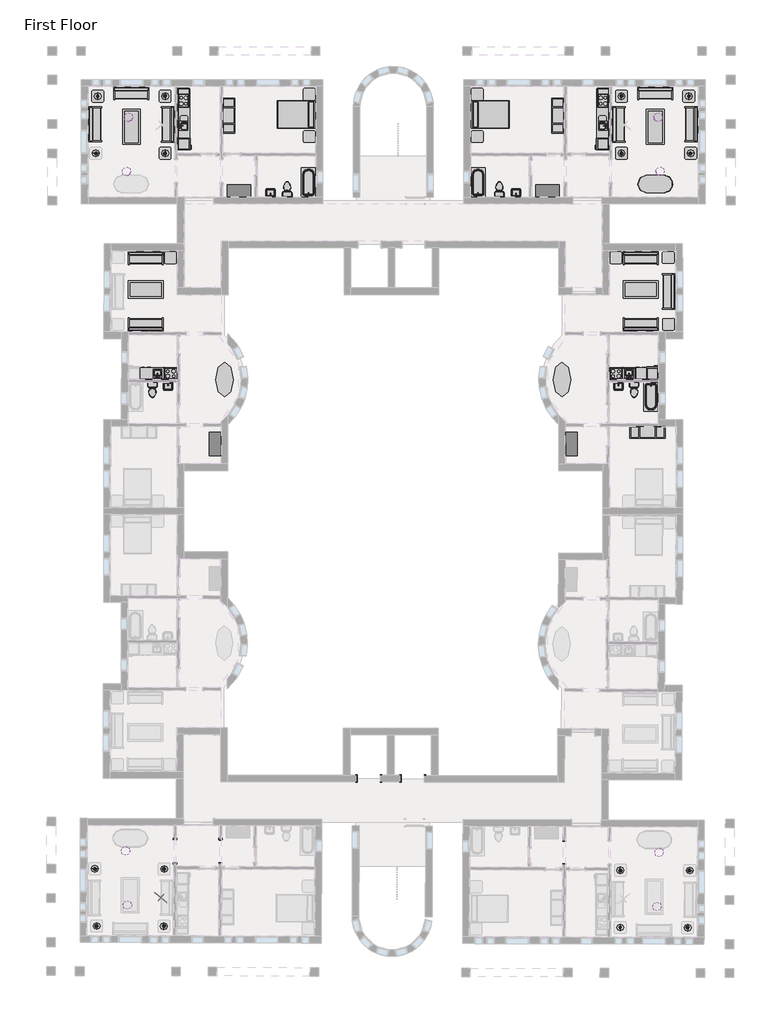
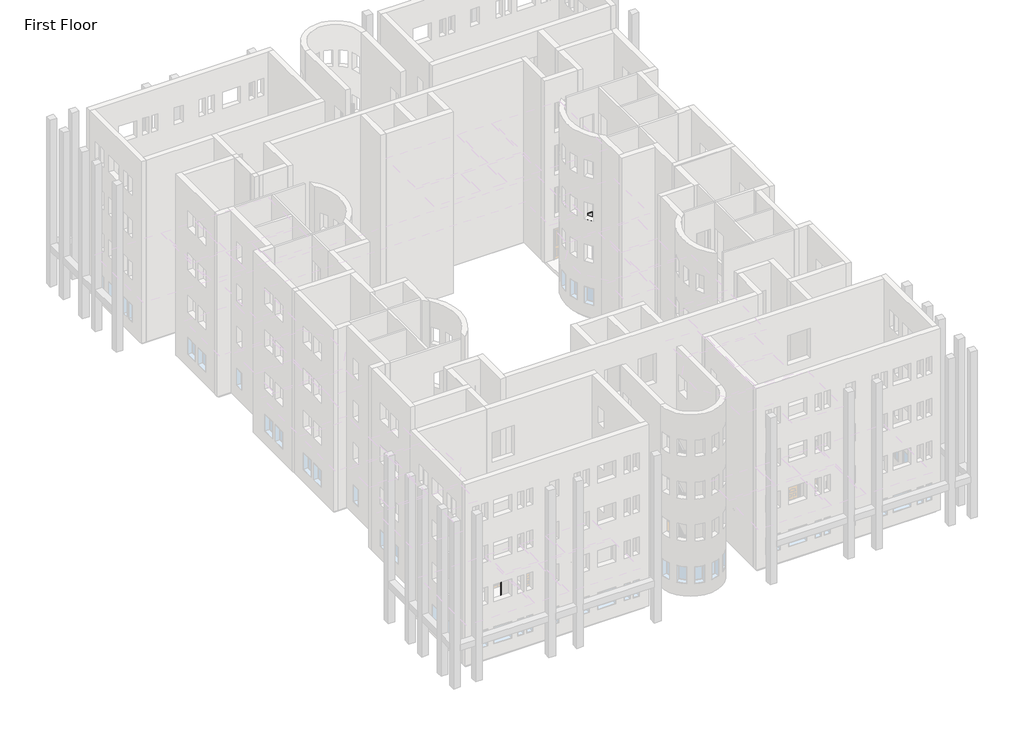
# One storey, part 22 of 23: 46 furniture elements, 24 light fixtures, 21 proxies, 15 flow terminals.
"""IFC4 building model written with IfcOpenShell, lengths in millimetres."""

from ifc_helpers import new_model, si_unit, origin, place, context, project, spatial, transform, mapped, element, save
from components import m_cook_top_4_unit2_0615_x_500mm_249f3515, m_cook_top_4_unit2_0615_x_500mm_c91639ce, m_dishwasher_610_x_610_x_875mm_54ecfc4c, m_dishwasher_610_x_610_x_875mm_75336c20, m_kitchenette_medium_2591_ce898a11, m_kitchenette_medium_2591_5feaf90f, m_kitchenette_medium_1372mm_e05c6bec, m_kitchenette_medium_1372mm_39f1532f, m_passage_opening_cased_1220_x_2134mm_87a8d9c2, m_passage_opening_cased_1220_x_2134mm_7296280d, m_passage_opening_cased_1220_x_2134mm_b92f2863, m_rpc_female_c3b5a3e1, m_refrigerator_600_x_660mm_a466bf94, m_refrigerator_600_x_660mm_0a899b9c, m_sink_kitchen_island_450_x_450mm_f969cf2d, m_sink_kitchen_island_450_x_450mm_f6c2c534, m_sink_vanity_square_500_x_440mm_1e229b74, m_sink_vanity_square_500_x_440mm_f3cfe680, m_toilet_domestic_3d_m_toilet_domestic_3d_5cb52bd4, m_toilet_domestic_3d_m_toilet_domestic_3d_183bbd19, m_toilet_domestic_3d_m_toilet_domestic_3d_43425dfb, m_toilet_domestic_3d_m_toilet_domestic_3d_5530cc89, m_tub_rectangular_3d_m_tub_rectangular_3d_3a981ad5, m_tub_rectangular_3d_m_tub_rectangular_3d_c2020133, m_bed_shaker_1422_x_1981mm_double_096e7f55, m_bed_shaker_1422_x_1981mm_double_097b173b, m_counter_top_w_sink_hole_600mm_depth_5db41418, m_counter_top_w_sink_hole_600mm_depth_08c4f679, m_counter_top_w_sink_hole_600mm_depth_60928b92, m_counter_top_w_sink_hole_600mm_depth_42226178, m_dresser_1220_x_1525_x_0610mm_18e1f140, m_dresser_1220_x_1525_x_0610mm_4e5de046, m_entertainment_center_1830_x_1830_x_0610mm_f77a9b93, m_entertainment_center_1830_x_1830_x_0610mm_4f6058a0, m_sofa_1830mm_58d08fc1, m_sofa_1830mm_3da2e71b, m_sofa1_1830mm_f9e8a66b, m_sofa1_1830mm_493d6964, m_table_coffee_0915_x_1830_x_0457mm_134cd960, m_table_coffee_0915_x_1830_x_0457mm_595c1ebd, m_table_dining_oval_0915_x_1830mm_a7cfbe21, m_table_ellipse_1800_x_900mm_fd46d5a5, m_table_ellipse_1800_x_900mm_f7269293, m_table_end_cb6ea12e, m_table_end_aa2764bc, m_table_end_0610_x_0160mm_e0e5b28f, m_table_end_0610_x_0160mm_ccef8dc9, m_pendant_light_disk_100w_120v_a7a090af, m_pendant_light_disk_100w_120v_732193ba, m_table_lamp_standard_60w_120v_6e8cd8b1, m_table_lamp_standard_60w_120v_b33ea945

model = new_model("IFC4")

# Units and contexts
model_context = context("Model", 3, world=origin())
ifc_project = project(units=[si_unit("LENGTHUNIT", "METRE", prefix="MILLI")], contexts=[model_context])

# Site, building, storey
site = spatial("IfcSite", under=ifc_project)
building = spatial("IfcBuilding", under=site)
storey = spatial("IfcBuildingStorey", under=building, Name="First Floor", Elevation=0.0)

# Proxies
placement = place(None, origin())
m_cook_top_4_unit2_0615_x_500mm_shape = m_cook_top_4_unit2_0615_x_500mm_249f3515(model_context)
element("IfcBuildingElementProxy", 1, Name="M_Cook Top-4 Unit2 : 0615 x 500mm", ObjectType="M_Cook Top-4 Unit2 : 0615 x 500mm", at=placement, inside=storey, context=model_context, shape_type="MappedRepresentation", body=[
    mapped(m_cook_top_4_unit2_0615_x_500mm_shape, transform((-8054.9916203, 1658.804661, 0.0), x_axis=(0.0, -1.0, 0.0), y_axis=(1.0, 0.0, 0.0), z_axis=(0.0, 0.0, 1.0))),
])
element("IfcBuildingElementProxy", 2, Name="M_Cook Top-4 Unit2 : 0615 x 500mm", ObjectType="M_Cook Top-4 Unit2 : 0615 x 500mm", at=placement, inside=storey, context=model_context, shape_type="MappedRepresentation", body=[
    mapped(m_cook_top_4_unit2_0615_x_500mm_shape, transform((-30530.5448332, -12522.1734226, 0.0), x_axis=(-0.9999989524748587, 0.0014474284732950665, 0.0), y_axis=(-0.0014474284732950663, -0.9999989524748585, 0.0), z_axis=(0.0, 0.0, 0.9999999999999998))),
])
m_cook_top_4_unit2_0615_x_500mm_2_shape = m_cook_top_4_unit2_0615_x_500mm_c91639ce(model_context)
element("IfcBuildingElementProxy", 3, Name="M_Cook Top-4 Unit2 : 0615 x 500mm", ObjectType="M_Cook Top-4 Unit2 : 0615 x 500mm", at=placement, inside=storey, context=model_context, shape_type="MappedRepresentation", body=[
    mapped(m_cook_top_4_unit2_0615_x_500mm_2_shape, transform((-7383.6384074, -12522.1734226, 0.0), x_axis=(0.9999989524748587, 0.0014474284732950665, 0.0), y_axis=(-0.0014474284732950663, 0.9999989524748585, 0.0), z_axis=(0.0, 0.0, 0.9999999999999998))),
])
element("IfcBuildingElementProxy", 4, Name="M_Cook Top-4 Unit2 : 0615 x 500mm", ObjectType="M_Cook Top-4 Unit2 : 0615 x 500mm", at=placement, inside=storey, context=model_context, shape_type="MappedRepresentation", body=[
    mapped(m_cook_top_4_unit2_0615_x_500mm_2_shape, transform((-29859.1916203, 1658.804661, 0.0), x_axis=(0.0, -1.0, 0.0), y_axis=(1.0, 0.0, 0.0), z_axis=(0.0, 0.0, 1.0))),
])
m_dishwasher_610_x_610_x_875mm_shape = m_dishwasher_610_x_610_x_875mm_54ecfc4c(model_context)
element("IfcBuildingElementProxy", 5, Name="M_Dishwasher : 610 x 610 x 875mm", ObjectType="M_Dishwasher : 610 x 610 x 875mm", at=placement, inside=storey, context=model_context, shape_type="MappedRepresentation", body=[
    mapped(m_dishwasher_610_x_610_x_875mm_shape, transform((-8321.6411851, 403.0721295, 0.0), x_axis=(0.0, -1.0, 0.0), y_axis=(1.0, 0.0, 0.0), z_axis=(0.0, 0.0, 1.0))),
])
element("IfcBuildingElementProxy", 6, Name="M_Dishwasher : 610 x 610 x 875mm", ObjectType="M_Dishwasher : 610 x 610 x 875mm", at=placement, inside=storey, context=model_context, shape_type="MappedRepresentation", body=[
    mapped(m_dishwasher_610_x_610_x_875mm_shape, transform((-31445.6404496, -12254.1990417, 0.0), x_axis=(-0.9999989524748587, 0.0014474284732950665, 0.0), y_axis=(-0.0014474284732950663, -0.9999989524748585, 0.0), z_axis=(0.0, 0.0, 0.9999999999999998))),
])
m_dishwasher_610_x_610_x_875mm_2_shape = m_dishwasher_610_x_610_x_875mm_75336c20(model_context)
element("IfcBuildingElementProxy", 7, Name="M_Dishwasher : 610 x 610 x 875mm", ObjectType="M_Dishwasher : 610 x 610 x 875mm", at=placement, inside=storey, context=model_context, shape_type="MappedRepresentation", body=[
    mapped(m_dishwasher_610_x_610_x_875mm_2_shape, transform((-6468.5427911, -12254.1990417, 0.0), x_axis=(0.9999989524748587, 0.0014474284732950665, 0.0), y_axis=(-0.0014474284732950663, 0.9999989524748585, 0.0), z_axis=(0.0, 0.0, 0.9999999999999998))),
])
element("IfcBuildingElementProxy", 8, Name="M_Dishwasher : 610 x 610 x 875mm", ObjectType="M_Dishwasher : 610 x 610 x 875mm", at=placement, inside=storey, context=model_context, shape_type="MappedRepresentation", body=[
    mapped(m_dishwasher_610_x_610_x_875mm_2_shape, transform((-29592.5420555, 403.0721295, 0.0), x_axis=(0.0, -1.0, 0.0), y_axis=(1.0, 0.0, 0.0), z_axis=(0.0, 0.0, 1.0))),
])
m_kitchenette_medium_2591_shape = m_kitchenette_medium_2591_ce898a11(model_context)
element("IfcBuildingElementProxy", 9, Name="M_Kitchenette - Medium : 2591", ObjectType="M_Kitchenette - Medium : 2591", at=placement, inside=storey, context=model_context, shape_type="MappedRepresentation", body=[
    mapped(m_kitchenette_medium_2591_shape, transform((-7749.9916203, 1029.7923659, 0.0), x_axis=(0.0, -1.0, 0.0), y_axis=(1.0, 0.0, 0.0), z_axis=(0.0, 0.0, 1.0))),
])
m_kitchenette_medium_2591_2_shape = m_kitchenette_medium_2591_5feaf90f(model_context)
element("IfcBuildingElementProxy", 10, Name="M_Kitchenette - Medium : 2591", ObjectType="M_Kitchenette - Medium : 2591", at=placement, inside=storey, context=model_context, shape_type="MappedRepresentation", body=[
    mapped(m_kitchenette_medium_2591_2_shape, transform((-30164.1916203, 1029.7923659, 0.0), x_axis=(0.0, -1.0, 0.0), y_axis=(1.0, 0.0, 0.0), z_axis=(0.0, 0.0, 1.0))),
])
m_kitchenette_medium_1372mm_shape = m_kitchenette_medium_1372mm_e05c6bec(model_context)
element("IfcBuildingElementProxy", 11, Name="M_Kitchenette - Medium1 : 1372mm 2", ObjectType="M_Kitchenette - Medium1 : 1372mm 2", at=placement, inside=storey, context=model_context, shape_type="MappedRepresentation", body=[
    mapped(m_kitchenette_medium_1372mm_shape, transform((-30855.2482543, -12826.7037567, 0.0), x_axis=(-0.9999989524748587, 0.0014474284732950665, 0.0), y_axis=(-0.0014474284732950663, -0.9999989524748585, 0.0), z_axis=(0.0, 0.0, 0.9999999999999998))),
])
m_kitchenette_medium_1372mm_2_shape = m_kitchenette_medium_1372mm_39f1532f(model_context)
element("IfcBuildingElementProxy", 12, Name="M_Kitchenette - Medium1 : 1372mm 2", ObjectType="M_Kitchenette - Medium1 : 1372mm 2", at=placement, inside=storey, context=model_context, shape_type="MappedRepresentation", body=[
    mapped(m_kitchenette_medium_1372mm_2_shape, transform((-7058.9349863, -12826.7037567, 0.0), x_axis=(0.9999989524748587, 0.0014474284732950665, 0.0), y_axis=(-0.0014474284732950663, 0.9999989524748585, 0.0), z_axis=(0.0, 0.0, 0.9999999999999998))),
])
m_passage_opening_cased_1220_x_2134mm_shape = m_passage_opening_cased_1220_x_2134mm_87a8d9c2(model_context)
element("IfcBuildingElementProxy", 13, Name="M_Passage Opening-Cased : 1220 x 2134mm", ObjectType="M_Passage Opening-Cased : 1220 x 2134mm", at=placement, inside=storey, context=model_context, shape_type="MappedRepresentation", body=[
    mapped(m_passage_opening_cased_1220_x_2134mm_shape, transform((-30300.0399955, -37354.6106974, 0.0), x_axis=(-0.0028948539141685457, -0.9999958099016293, 0.0), y_axis=(0.9999958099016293, -0.0028948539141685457, 0.0), z_axis=(0.0, 0.0, 1.0))),
])
element("IfcBuildingElementProxy", 14, Name="M_Passage Opening-Cased : 1220 x 2134mm", ObjectType="M_Passage Opening-Cased : 1220 x 2134mm", at=placement, inside=storey, context=model_context, shape_type="MappedRepresentation", body=[
    mapped(m_passage_opening_cased_1220_x_2134mm_shape, transform((-27946.252448, -37345.047215, 0.0), x_axis=(0.0028948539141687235, 0.9999958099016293, 0.0), y_axis=(-0.9999958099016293, 0.0028948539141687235, 0.0), z_axis=(0.0, 0.0, 1.0))),
])
m_passage_opening_cased_1220_x_2134mm_2_shape = m_passage_opening_cased_1220_x_2134mm_7296280d(model_context)
element("IfcBuildingElementProxy", 15, Name="M_Passage Opening-Cased : 1220 x 2134mm", ObjectType="M_Passage Opening-Cased : 1220 x 2134mm", at=placement, inside=storey, context=model_context, shape_type="MappedRepresentation", body=[
    mapped(m_passage_opening_cased_1220_x_2134mm_2_shape, transform((-10070.3273502, -37396.7956235, 0.0), x_axis=(0.0028948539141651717, 0.9999958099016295, 0.0), y_axis=(-0.9999958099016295, 0.0028948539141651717, 0.0), z_axis=(0.0, 0.0, 1.0))),
])
m_passage_opening_cased_1220_x_2134mm_3_shape = m_passage_opening_cased_1220_x_2134mm_b92f2863(model_context)
element("IfcBuildingElementProxy", 16, Name="M_Passage Opening-Cased : 1220 x 2134mm", ObjectType="M_Passage Opening-Cased : 1220 x 2134mm", at=placement, inside=storey, context=model_context, shape_type="MappedRepresentation", body=[
    mapped(m_passage_opening_cased_1220_x_2134mm_3_shape, transform((-17956.4772285, -33572.1390027, 0.0), x_axis=(-0.9999958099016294, 0.0028948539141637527, 0.0), y_axis=(-0.0028948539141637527, -0.9999958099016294, 0.0), z_axis=(0.0, 0.0, 1.0))),
])
element("IfcBuildingElementProxy", 17, Name="M_Passage Opening-Cased : 1220 x 2134mm", ObjectType="M_Passage Opening-Cased : 1220 x 2134mm", at=placement, inside=storey, context=model_context, shape_type="MappedRepresentation", body=[
    mapped(m_passage_opening_cased_1220_x_2134mm_3_shape, transform((-20226.0904051, -33565.5687766, 0.0), x_axis=(0.9999958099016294, -0.0028948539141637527, 0.0), y_axis=(0.0028948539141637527, 0.9999958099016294, 0.0), z_axis=(0.0, 0.0, 1.0))),
])
m_rpc_female_shape = m_rpc_female_c3b5a3e1(model_context)
element("IfcBuildingElementProxy", 18, Name="M_RPC Female : Cynthia", ObjectType="M_RPC Female : Cynthia", at=placement, inside=storey, context=model_context, shape_type="MappedRepresentation", body=[
    mapped(m_rpc_female_shape, transform((-31154.1452796, -39648.8920059, 0.0), x_axis=(0.6315674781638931, 0.77532091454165, 0.0), y_axis=(-0.77532091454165, 0.6315674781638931, 0.0), z_axis=(0.0, 0.0, 1.0))),
])
m_refrigerator_600_x_660mm_shape = m_refrigerator_600_x_660mm_a466bf94(model_context)
element("IfcBuildingElementProxy", 19, Name="M_Refrigerator : 600 x 660mm", ObjectType="M_Refrigerator : 600 x 660mm", at=placement, inside=storey, context=model_context, shape_type="MappedRepresentation", body=[
    mapped(m_refrigerator_600_x_660mm_shape, transform((-8046.2067105, -638.2464817, 0.0), x_axis=(0.0, -1.0, 0.0), y_axis=(1.0, 0.0, 0.0), z_axis=(0.0, 0.0, 1.0))),
])
m_refrigerator_600_x_660mm_2_shape = m_refrigerator_600_x_660mm_0a899b9c(model_context)
element("IfcBuildingElementProxy", 20, Name="M_Refrigerator : 600 x 660mm", ObjectType="M_Refrigerator : 600 x 660mm", at=placement, inside=storey, context=model_context, shape_type="MappedRepresentation", body=[
    mapped(m_refrigerator_600_x_660mm_2_shape, transform((-5426.8265991, -12528.1259936, 0.0), x_axis=(0.9999989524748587, 0.0014474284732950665, 0.0), y_axis=(-0.0014474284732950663, 0.9999989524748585, 0.0), z_axis=(0.0, 0.0, 0.9999999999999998))),
])
element("IfcBuildingElementProxy", 21, Name="M_Refrigerator : 600 x 660mm", ObjectType="M_Refrigerator : 600 x 660mm", at=placement, inside=storey, context=model_context, shape_type="MappedRepresentation", body=[
    mapped(m_refrigerator_600_x_660mm_2_shape, transform((-29867.9765301, -638.2464817, 0.0), x_axis=(0.0, -1.0, 0.0), y_axis=(1.0, 0.0, 0.0), z_axis=(0.0, 0.0, 1.0))),
])

# Flow terminals
m_sink_kitchen_island_450_x_450mm_shape = m_sink_kitchen_island_450_x_450mm_f969cf2d(model_context)
element("IfcFlowTerminal", 22, ObjectType="M_Sink Kitchen-Island : 450 x 450mm", at=placement, inside=storey, context=model_context, shape_type="MappedRepresentation", body=[
    mapped(m_sink_kitchen_island_450_x_450mm_shape, transform((-8057.3370214, 378.9939015, 0.0), x_axis=(0.0, -1.0, 0.0), y_axis=(1.0, 0.0, 0.0), z_axis=(0.0, 0.0, 1.0))),
])
element("IfcFlowTerminal", 23, ObjectType="M_Sink Kitchen-Island : 450 x 450mm", at=placement, inside=storey, context=model_context, shape_type="MappedRepresentation", body=[
    mapped(m_sink_kitchen_island_450_x_450mm_shape, transform((-31200.8514957, -12518.8577971, 0.0), x_axis=(-0.9999989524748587, 0.0014474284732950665, 0.0), y_axis=(-0.0014474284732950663, -0.9999989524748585, 0.0), z_axis=(0.0, 0.0, 0.9999999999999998))),
])
m_sink_kitchen_island_450_x_450mm_2_shape = m_sink_kitchen_island_450_x_450mm_f6c2c534(model_context)
element("IfcFlowTerminal", 24, ObjectType="M_Sink Kitchen-Island : 450 x 450mm", at=placement, inside=storey, context=model_context, shape_type="MappedRepresentation", body=[
    mapped(m_sink_kitchen_island_450_x_450mm_2_shape, transform((-6713.331745, -12518.8577971, 0.0), x_axis=(0.9999989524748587, 0.0014474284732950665, 0.0), y_axis=(-0.0014474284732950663, 0.9999989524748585, 0.0), z_axis=(0.0, 0.0, 0.9999999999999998))),
])
element("IfcFlowTerminal", 25, ObjectType="M_Sink Kitchen-Island : 450 x 450mm", at=placement, inside=storey, context=model_context, shape_type="MappedRepresentation", body=[
    mapped(m_sink_kitchen_island_450_x_450mm_2_shape, transform((-29856.8462192, 378.9939015, 0.0), x_axis=(0.0, -1.0, 0.0), y_axis=(1.0, 0.0, 0.0), z_axis=(0.0, 0.0, 1.0))),
])
m_sink_vanity_square_500_x_440mm_shape = m_sink_vanity_square_500_x_440mm_1e229b74(model_context)
element("IfcFlowTerminal", 26, ObjectType="M_Sink Vanity-Square : 500 x 440mm", at=placement, inside=storey, context=model_context, shape_type="MappedRepresentation", body=[
    mapped(m_sink_vanity_square_500_x_440mm_shape, transform((-12563.5523798, -3158.1107603, 0.0), x_axis=(-1.0, 0.0, 0.0), y_axis=(0.0, -1.0, 0.0), z_axis=(0.0, 0.0, 1.0))),
])
element("IfcFlowTerminal", 27, ObjectType="M_Sink Vanity-Square : 500 x 440mm", at=placement, inside=storey, context=model_context, shape_type="MappedRepresentation", body=[
    mapped(m_sink_vanity_square_500_x_440mm_shape, transform((-30677.3455366, -13134.5069817, 0.0), x_axis=(0.9999989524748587, -0.001447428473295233, 0.0), y_axis=(0.0014474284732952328, 0.9999989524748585, 0.0), z_axis=(0.0, 0.0, 0.9999999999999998))),
])
m_sink_vanity_square_500_x_440mm_2_shape = m_sink_vanity_square_500_x_440mm_f3cfe680(model_context)
element("IfcFlowTerminal", 28, ObjectType="M_Sink Vanity-Square : 500 x 440mm", at=placement, inside=storey, context=model_context, shape_type="MappedRepresentation", body=[
    mapped(m_sink_vanity_square_500_x_440mm_2_shape, transform((-7236.8377041, -13134.5069817, 0.0), x_axis=(-0.9999989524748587, -0.001447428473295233, 0.0), y_axis=(0.0014474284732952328, -0.9999989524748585, 0.0), z_axis=(0.0, 0.0, 0.9999999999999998))),
])
element("IfcFlowTerminal", 29, ObjectType="M_Sink Vanity-Square : 500 x 440mm", at=placement, inside=storey, context=model_context, shape_type="MappedRepresentation", body=[
    mapped(m_sink_vanity_square_500_x_440mm_2_shape, transform((-25350.6308609, -3158.1107603, 0.0), x_axis=(1.0, 0.0, 0.0), y_axis=(0.0, 1.0, 0.0), z_axis=(0.0, 0.0, 1.0))),
])
m_toilet_domestic_3d_m_toilet_domestic_3d_shape = m_toilet_domestic_3d_m_toilet_domestic_3d_5cb52bd4(model_context)
m_toilet_domestic_3d_m_toilet_domestic_3d_2_shape = m_toilet_domestic_3d_m_toilet_domestic_3d_183bbd19(model_context)
element("IfcFlowTerminal", 30, ObjectType="M_Toilet-Domestic-3D : M_Toilet-Domestic-3D", at=placement, inside=storey, context=model_context, shape_type="MappedRepresentation", body=[
    mapped(m_toilet_domestic_3d_m_toilet_domestic_3d_shape, transform((-13440.7376477, -2845.185134, 0.0), x_axis=(-1.0, 0.0, 0.0), y_axis=(0.0, -1.0, 0.0), z_axis=(0.0, 0.0, 1.0))),
    mapped(m_toilet_domestic_3d_m_toilet_domestic_3d_2_shape, transform((-13440.7376477, -2845.185134, 0.0), x_axis=(-1.0, 0.0, 0.0), y_axis=(0.0, -1.0, 0.0), z_axis=(0.0, 0.0, 1.0))),
])
m_toilet_domestic_3d_m_toilet_domestic_3d_3_shape = m_toilet_domestic_3d_m_toilet_domestic_3d_43425dfb(model_context)
m_toilet_domestic_3d_m_toilet_domestic_3d_4_shape = m_toilet_domestic_3d_m_toilet_domestic_3d_5530cc89(model_context)
element("IfcFlowTerminal", 31, ObjectType="M_Toilet-Domestic-3D : M_Toilet-Domestic-3D", at=placement, inside=storey, context=model_context, shape_type="MappedRepresentation", body=[
    mapped(m_toilet_domestic_3d_m_toilet_domestic_3d_3_shape, transform((-24473.445593, -2845.185134, 0.0), x_axis=(1.0, 0.0, 0.0), y_axis=(0.0, 1.0, 0.0), z_axis=(0.0, 0.0, 1.0))),
    mapped(m_toilet_domestic_3d_m_toilet_domestic_3d_4_shape, transform((-24473.445593, -2845.185134, 0.0), x_axis=(1.0, 0.0, 0.0), y_axis=(0.0, 1.0, 0.0), z_axis=(0.0, 0.0, 1.0))),
])
element("IfcFlowTerminal", 32, ObjectType="M_Toilet-Domestic-3D1 : M_Toilet-Domestic-3D", at=placement, inside=storey, context=model_context, shape_type="MappedRepresentation", body=[
    mapped(m_toilet_domestic_3d_m_toilet_domestic_3d_shape, transform((-31475.0435019, -13456.0033339, 0.0), x_axis=(0.9999989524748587, -0.001447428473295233, 0.0), y_axis=(0.0014474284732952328, 0.9999989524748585, 0.0), z_axis=(0.0, 0.0, 0.9999999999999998))),
    mapped(m_toilet_domestic_3d_m_toilet_domestic_3d_2_shape, transform((-31475.0435019, -13456.0033339, 0.0), x_axis=(0.9999989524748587, -0.001447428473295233, 0.0), y_axis=(0.0014474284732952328, 0.9999989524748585, 0.0), z_axis=(0.0, 0.0, 0.9999999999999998))),
])
element("IfcFlowTerminal", 33, ObjectType="M_Toilet-Domestic-3D1 : M_Toilet-Domestic-3D", at=placement, inside=storey, context=model_context, shape_type="MappedRepresentation", body=[
    mapped(m_toilet_domestic_3d_m_toilet_domestic_3d_3_shape, transform((-6439.1397387, -13456.0033339, 0.0), x_axis=(-0.9999989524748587, -0.001447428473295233, 0.0), y_axis=(0.0014474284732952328, -0.9999989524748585, 0.0), z_axis=(0.0, 0.0, 0.9999999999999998))),
    mapped(m_toilet_domestic_3d_m_toilet_domestic_3d_4_shape, transform((-6439.1397387, -13456.0033339, 0.0), x_axis=(-0.9999989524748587, -0.001447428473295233, 0.0), y_axis=(0.0014474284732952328, -0.9999989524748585, 0.0), z_axis=(0.0, 0.0, 0.9999999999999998))),
])
m_tub_rectangular_3d_m_tub_rectangular_3d_shape = m_tub_rectangular_3d_m_tub_rectangular_3d_3a981ad5(model_context)
element("IfcFlowTerminal", 34, ObjectType="M_Tub-Rectangular-3D : M_Tub-Rectangular-3D", at=placement, inside=storey, context=model_context, shape_type="MappedRepresentation", body=[
    mapped(m_tub_rectangular_3d_m_tub_rectangular_3d_shape, transform((-15110.3416203, -2229.2781927, 0.0), x_axis=(0.0, 1.0, 0.0), y_axis=(-1.0, 0.0, 0.0), z_axis=(0.0, 0.0, 1.0))),
])
element("IfcFlowTerminal", 35, ObjectType="M_Tub-Rectangular-3D : M_Tub-Rectangular-3D", at=placement, inside=storey, context=model_context, shape_type="MappedRepresentation", body=[
    mapped(m_tub_rectangular_3d_m_tub_rectangular_3d_shape, transform((-5003.7957874, -14069.8333606, 0.0), x_axis=(0.0014474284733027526, -0.9999989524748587, 0.0), y_axis=(0.9999989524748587, 0.0014474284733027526, 0.0), z_axis=(0.0, 0.0, 1.0))),
])
m_tub_rectangular_3d_m_tub_rectangular_3d_2_shape = m_tub_rectangular_3d_m_tub_rectangular_3d_c2020133(model_context)
element("IfcFlowTerminal", 36, ObjectType="M_Tub-Rectangular-3D : M_Tub-Rectangular-3D", at=placement, inside=storey, context=model_context, shape_type="MappedRepresentation", body=[
    mapped(m_tub_rectangular_3d_m_tub_rectangular_3d_2_shape, transform((-22803.8416203, -2229.2781927, 0.0), x_axis=(0.0, 1.0, 0.0), y_axis=(-1.0, 0.0, 0.0), z_axis=(0.0, 0.0, 1.0))),
])

# Furniture
m_bed_shaker_1422_x_1981mm_double_shape = m_bed_shaker_1422_x_1981mm_double_096e7f55(model_context)
element("IfcFurniture", 37, ObjectType="M_Bed-Shaker : 1422 x 1981mm - Double", at=placement, inside=storey, context=model_context, shape_type="MappedRepresentation", body=[
    mapped(m_bed_shaker_1422_x_1981mm_double_shape, transform((-14905.3416203, 963.9688386, 0.0), x_axis=(0.0, 1.0, 0.0), y_axis=(-1.0, 0.0, 0.0), z_axis=(0.0, 0.0, 1.0))),
])
m_bed_shaker_1422_x_1981mm_double_2_shape = m_bed_shaker_1422_x_1981mm_double_097b173b(model_context)
element("IfcFurniture", 38, ObjectType="M_Bed-Shaker : 1422 x 1981mm - Double", at=placement, inside=storey, context=model_context, shape_type="MappedRepresentation", body=[
    mapped(m_bed_shaker_1422_x_1981mm_double_2_shape, transform((-23008.8416203, 963.9688386, 0.0), x_axis=(0.0, 1.0, 0.0), y_axis=(-1.0, 0.0, 0.0), z_axis=(0.0, 0.0, 1.0))),
])
m_counter_top_w_sink_hole_600mm_depth_shape = m_counter_top_w_sink_hole_600mm_depth_5db41418(model_context)
element("IfcFurniture", 39, ObjectType="M_Counter Top w Sink Hole : 600mm Depth", at=placement, inside=storey, context=model_context, shape_type="MappedRepresentation", body=[
    mapped(m_counter_top_w_sink_hole_600mm_depth_shape, transform((-7749.9916203, 496.5923659, 0.0), x_axis=(0.0, -1.0, 0.0), y_axis=(1.0, 0.0, 0.0), z_axis=(0.0, 0.0, 1.0))),
])
m_counter_top_w_sink_hole_600mm_depth_2_shape = m_counter_top_w_sink_hole_600mm_depth_08c4f679(model_context)
element("IfcFurniture", 40, ObjectType="M_Counter Top w Sink Hole : 600mm Depth", at=placement, inside=storey, context=model_context, shape_type="MappedRepresentation", body=[
    mapped(m_counter_top_w_sink_hole_600mm_depth_2_shape, transform((-31388.4476958, -12825.9319878, 0.0), x_axis=(-0.9999989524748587, 0.0014474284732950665, 0.0), y_axis=(-0.0014474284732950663, -0.9999989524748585, 0.0), z_axis=(0.0, 0.0, 0.9999999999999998))),
])
m_counter_top_w_sink_hole_600mm_depth_3_shape = m_counter_top_w_sink_hole_600mm_depth_60928b92(model_context)
element("IfcFurniture", 41, ObjectType="M_Counter Top w Sink Hole : 600mm Depth", at=placement, inside=storey, context=model_context, shape_type="MappedRepresentation", body=[
    mapped(m_counter_top_w_sink_hole_600mm_depth_3_shape, transform((-6525.7355449, -12825.9319878, 0.0), x_axis=(0.9999989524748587, 0.0014474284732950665, 0.0), y_axis=(-0.0014474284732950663, 0.9999989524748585, 0.0), z_axis=(0.0, 0.0, 0.9999999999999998))),
])
m_counter_top_w_sink_hole_600mm_depth_4_shape = m_counter_top_w_sink_hole_600mm_depth_42226178(model_context)
element("IfcFurniture", 42, ObjectType="M_Counter Top w Sink Hole : 600mm Depth", at=placement, inside=storey, context=model_context, shape_type="MappedRepresentation", body=[
    mapped(m_counter_top_w_sink_hole_600mm_depth_4_shape, transform((-30164.1916203, 496.5923659, 0.0), x_axis=(0.0, -1.0, 0.0), y_axis=(1.0, 0.0, 0.0), z_axis=(0.0, 0.0, 1.0))),
])
m_dresser_1220_x_1525_x_0610mm_shape = m_dresser_1220_x_1525_x_0610mm_18e1f140(model_context)
element("IfcFurniture", 43, ObjectType="M_Dresser : 1220 x 1525 x 0610mm", at=placement, inside=storey, context=model_context, shape_type="MappedRepresentation", body=[
    mapped(m_dresser_1220_x_1525_x_0610mm_shape, transform((-10667.6483605, -2647.7182073, 0.0), x_axis=(1.0, 0.0, 0.0), y_axis=(0.0, 1.0, 0.0), z_axis=(0.0, 0.0, 1.0))),
])
element("IfcFurniture", 44, ObjectType="M_Dresser : 1220 x 1525 x 0610mm", at=placement, inside=storey, context=model_context, shape_type="MappedRepresentation", body=[
    mapped(m_dresser_1220_x_1525_x_0610mm_shape, transform((-28574.6164889, -15914.9147832, 0.0), x_axis=(0.0014474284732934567, 0.9999989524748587, 0.0), y_axis=(-0.9999989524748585, 0.0014474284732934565, 0.0), z_axis=(0.0, 0.0, 0.9999999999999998))),
])
m_dresser_1220_x_1525_x_0610mm_2_shape = m_dresser_1220_x_1525_x_0610mm_4e5de046(model_context)
element("IfcFurniture", 45, ObjectType="M_Dresser : 1220 x 1525 x 0610mm", at=placement, inside=storey, context=model_context, shape_type="MappedRepresentation", body=[
    mapped(m_dresser_1220_x_1525_x_0610mm_2_shape, transform((-9339.5667518, -15914.9147832, 0.0), x_axis=(-0.0014474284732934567, 0.9999989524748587, 0.0), y_axis=(-0.9999989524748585, -0.0014474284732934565, 0.0), z_axis=(0.0, 0.0, 0.9999999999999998))),
])
element("IfcFurniture", 46, ObjectType="M_Dresser : 1220 x 1525 x 0610mm", at=placement, inside=storey, context=model_context, shape_type="MappedRepresentation", body=[
    mapped(m_dresser_1220_x_1525_x_0610mm_2_shape, transform((-27246.5348802, -2647.7182073, 0.0), x_axis=(-1.0, 0.0, 0.0), y_axis=(0.0, -1.0, 0.0), z_axis=(0.0, 0.0, 1.0))),
])
m_entertainment_center_1830_x_1830_x_0610mm_shape = m_entertainment_center_1830_x_1830_x_0610mm_f77a9b93(model_context)
element("IfcFurniture", 47, ObjectType="M_Entertainment center : 1830 x 1830 x 0610mm", at=placement, inside=storey, context=model_context, shape_type="MappedRepresentation", body=[
    mapped(m_entertainment_center_1830_x_1830_x_0610mm_shape, transform((-10818.2416203, 891.1188386, 0.0), x_axis=(0.0, 1.0, 0.0), y_axis=(-1.0, 0.0, 0.0), z_axis=(0.0, 0.0, 1.0))),
])
m_entertainment_center_1830_x_1830_x_0610mm_2_shape = m_entertainment_center_1830_x_1830_x_0610mm_4f6058a0(model_context)
element("IfcFurniture", 48, ObjectType="M_Entertainment center : 1830 x 1830 x 0610mm", at=placement, inside=storey, context=model_context, shape_type="MappedRepresentation", body=[
    mapped(m_entertainment_center_1830_x_1830_x_0610mm_2_shape, transform((-5741.0312966, -15980.2994888, 0.0), x_axis=(0.9999989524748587, 0.0014474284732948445, 0.0), y_axis=(-0.0014474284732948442, 0.9999989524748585, 0.0), z_axis=(0.0, 0.0, 0.9999999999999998))),
])
element("IfcFurniture", 49, ObjectType="M_Entertainment center : 1830 x 1830 x 0610mm", at=placement, inside=storey, context=model_context, shape_type="MappedRepresentation", body=[
    mapped(m_entertainment_center_1830_x_1830_x_0610mm_2_shape, transform((-27095.9416203, 891.1188386, 0.0), x_axis=(0.0, 1.0, 0.0), y_axis=(-1.0, 0.0, 0.0), z_axis=(0.0, 0.0, 1.0))),
])
m_sofa_1830mm_shape = m_sofa_1830mm_58d08fc1(model_context)
element("IfcFurniture", 50, ObjectType="M_Sofa : 1830mm", at=placement, inside=storey, context=model_context, shape_type="MappedRepresentation", body=[
    mapped(m_sofa_1830mm_shape, transform((-5413.7121121, 1899.9647403, 0.0), x_axis=(1.0, 0.0, 0.0), y_axis=(0.0, 1.0, 0.0), z_axis=(0.0, 0.0, 1.0))),
])
element("IfcFurniture", 51, ObjectType="M_Sofa : 1830mm", at=placement, inside=storey, context=model_context, shape_type="MappedRepresentation", body=[
    mapped(m_sofa_1830mm_shape, transform((-3617.1736471, 517.2688343, 0.0), x_axis=(0.0, -1.0, 0.0), y_axis=(1.0, 0.0, 0.0), z_axis=(0.0, 0.0, 1.0))),
])
element("IfcFurniture", 52, ObjectType="M_Sofa : 1830mm", at=placement, inside=storey, context=model_context, shape_type="MappedRepresentation", body=[
    mapped(m_sofa_1830mm_shape, transform((-7088.437522, 355.7483468, 0.0), x_axis=(0.0, 1.0, 0.0), y_axis=(-1.0, 0.0, 0.0), z_axis=(0.0, 0.0, 1.0))),
])
m_sofa_1830mm_2_shape = m_sofa_1830mm_3da2e71b(model_context)
element("IfcFurniture", 53, ObjectType="M_Sofa : 1830mm", at=placement, inside=storey, context=model_context, shape_type="MappedRepresentation", body=[
    mapped(m_sofa_1830mm_2_shape, transform((-32500.4711285, 1899.9647403, 0.0), x_axis=(-1.0, 0.0, 0.0), y_axis=(0.0, -1.0, 0.0), z_axis=(0.0, 0.0, 1.0))),
])
element("IfcFurniture", 54, ObjectType="M_Sofa : 1830mm", at=placement, inside=storey, context=model_context, shape_type="MappedRepresentation", body=[
    mapped(m_sofa_1830mm_2_shape, transform((-34297.0095936, 517.2688343, 0.0), x_axis=(0.0, -1.0, 0.0), y_axis=(1.0, 0.0, 0.0), z_axis=(0.0, 0.0, 1.0))),
])
element("IfcFurniture", 55, ObjectType="M_Sofa : 1830mm", at=placement, inside=storey, context=model_context, shape_type="MappedRepresentation", body=[
    mapped(m_sofa_1830mm_2_shape, transform((-30825.7457187, 355.7483468, 0.0), x_axis=(0.0, 1.0, 0.0), y_axis=(-1.0, 0.0, 0.0), z_axis=(0.0, 0.0, 1.0))),
])
m_sofa1_1830mm_shape = m_sofa1_1830mm_f9e8a66b(model_context)
element("IfcFurniture", 56, ObjectType="M_Sofa1 : 1830mm", at=placement, inside=storey, context=model_context, shape_type="MappedRepresentation", body=[
    mapped(m_sofa1_1830mm_shape, transform((-31753.247914, -9808.5967065, 0.0), x_axis=(-0.9999989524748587, 0.0014474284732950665, 0.0), y_axis=(-0.0014474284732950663, -0.9999989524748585, 0.0), z_axis=(0.0, 0.0, 0.9999999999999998))),
])
element("IfcFurniture", 57, ObjectType="M_Sofa1 : 1830mm", at=placement, inside=storey, context=model_context, shape_type="MappedRepresentation", body=[
    mapped(m_sofa1_1830mm_shape, transform((-31889.4482513, -6671.4544767, 0.0), x_axis=(0.9999989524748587, -0.001447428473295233, 0.0), y_axis=(0.0014474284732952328, 0.9999989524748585, 0.0), z_axis=(0.0, 0.0, 0.9999999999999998))),
])
m_sofa1_1830mm_2_shape = m_sofa1_1830mm_493d6964(model_context)
element("IfcFurniture", 58, ObjectType="M_Sofa1 : 1830mm", at=placement, inside=storey, context=model_context, shape_type="MappedRepresentation", body=[
    mapped(m_sofa1_1830mm_2_shape, transform((-4803.866496, -8323.9054813, 0.0), x_axis=(-0.0014474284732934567, 0.9999989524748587, 0.0), y_axis=(-0.9999989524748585, -0.0014474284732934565, 0.0), z_axis=(0.0, 0.0, 0.9999999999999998))),
])
element("IfcFurniture", 59, ObjectType="M_Sofa1 : 1830mm", at=placement, inside=storey, context=model_context, shape_type="MappedRepresentation", body=[
    mapped(m_sofa1_1830mm_2_shape, transform((-6160.9353266, -9808.5967065, 0.0), x_axis=(0.9999989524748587, 0.0014474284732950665, 0.0), y_axis=(-0.0014474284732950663, 0.9999989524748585, 0.0), z_axis=(0.0, 0.0, 0.9999999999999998))),
])
element("IfcFurniture", 60, ObjectType="M_Sofa1 : 1830mm", at=placement, inside=storey, context=model_context, shape_type="MappedRepresentation", body=[
    mapped(m_sofa1_1830mm_2_shape, transform((-6024.7349893, -6671.4544767, 0.0), x_axis=(-0.9999989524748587, -0.001447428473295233, 0.0), y_axis=(0.0014474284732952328, -0.9999989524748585, 0.0), z_axis=(0.0, 0.0, 0.9999999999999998))),
])
m_table_coffee_0915_x_1830_x_0457mm_shape = m_table_coffee_0915_x_1830_x_0457mm_134cd960(model_context)
element("IfcFurniture", 61, ObjectType="M_Table-Coffee : 0915 x 1830 x 0457mm", at=placement, inside=storey, context=model_context, shape_type="MappedRepresentation", body=[
    mapped(m_table_coffee_0915_x_1830_x_0457mm_shape, transform((-5248.1305425, 287.8530719, 0.0), x_axis=(0.0, 1.0, 0.0), y_axis=(-1.0, 0.0, 0.0), z_axis=(0.0, 0.0, 1.0))),
])
element("IfcFurniture", 62, ObjectType="M_Table-Coffee : 0915 x 1830 x 0457mm", at=placement, inside=storey, context=model_context, shape_type="MappedRepresentation", body=[
    mapped(m_table_coffee_0915_x_1830_x_0457mm_shape, transform((-31802.8209497, -8059.4661414, 0.0), x_axis=(-0.9999989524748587, 0.0014474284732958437, 0.0), y_axis=(-0.0014474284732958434, -0.9999989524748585, 0.0), z_axis=(0.0, 0.0, 0.9999999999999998))),
])
m_table_coffee_0915_x_1830_x_0457mm_2_shape = m_table_coffee_0915_x_1830_x_0457mm_595c1ebd(model_context)
element("IfcFurniture", 63, ObjectType="M_Table-Coffee : 0915 x 1830 x 0457mm", at=placement, inside=storey, context=model_context, shape_type="MappedRepresentation", body=[
    mapped(m_table_coffee_0915_x_1830_x_0457mm_2_shape, transform((-6111.362291, -8059.4661414, 0.0), x_axis=(0.9999989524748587, 0.0014474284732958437, 0.0), y_axis=(-0.0014474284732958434, 0.9999989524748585, 0.0), z_axis=(0.0, 0.0, 0.9999999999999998))),
])
element("IfcFurniture", 64, ObjectType="M_Table-Coffee : 0915 x 1830 x 0457mm", at=placement, inside=storey, context=model_context, shape_type="MappedRepresentation", body=[
    mapped(m_table_coffee_0915_x_1830_x_0457mm_2_shape, transform((-32666.0526981, 287.8530719, 0.0), x_axis=(0.0, 1.0, 0.0), y_axis=(-1.0, 0.0, 0.0), z_axis=(0.0, 0.0, 1.0))),
])
m_table_dining_oval_0915_x_1830mm_shape = m_table_dining_oval_0915_x_1830mm_a7cfbe21(model_context)
element("IfcFurniture", 65, ObjectType="M_Table-Dining Oval : 0915 x 1830mm", at=placement, inside=storey, context=model_context, shape_type="MappedRepresentation", body=[
    mapped(m_table_dining_oval_0915_x_1830mm_shape, transform((-4941.5219482, -2305.2828007, 0.0), x_axis=(1.0, 0.0, 0.0), y_axis=(0.0, 1.0, 0.0), z_axis=(0.0, 0.0, 1.0))),
])
m_table_ellipse_1800_x_900mm_shape = m_table_ellipse_1800_x_900mm_fd46d5a5(model_context)
element("IfcFurniture", 66, ObjectType="M_Table-Ellipse : 1800 x 900mm", at=placement, inside=storey, context=model_context, shape_type="MappedRepresentation", body=[
    mapped(m_table_ellipse_1800_x_900mm_shape, transform((-27726.9892362, -12831.2316926, 0.0), x_axis=(0.0014474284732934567, 0.9999989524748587, 0.0), y_axis=(-0.9999989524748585, 0.0014474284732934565, 0.0), z_axis=(0.0, 0.0, 0.9999999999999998))),
])
m_table_ellipse_1800_x_900mm_2_shape = m_table_ellipse_1800_x_900mm_f7269293(model_context)
element("IfcFurniture", 67, ObjectType="M_Table-Ellipse : 1800 x 900mm", at=placement, inside=storey, context=model_context, shape_type="MappedRepresentation", body=[
    mapped(m_table_ellipse_1800_x_900mm_2_shape, transform((-10187.1940045, -12831.2316926, 0.0), x_axis=(-0.0014474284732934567, 0.9999989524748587, 0.0), y_axis=(-0.9999989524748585, -0.0014474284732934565, 0.0), z_axis=(0.0, 0.0, 0.9999999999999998))),
])
m_table_end_shape = m_table_end_cb6ea12e(model_context)
element("IfcFurniture", 68, ObjectType="M_Table-End : 0610 x 0160mm altered height", at=placement, inside=storey, context=model_context, shape_type="MappedRepresentation", body=[
    mapped(m_table_end_shape, transform((-7407.0752506, 1748.7188386, 0.0), x_axis=(1.0, 0.0, 0.0), y_axis=(0.0, 1.0, 0.0), z_axis=(0.0, 0.0, 1.0))),
])
element("IfcFurniture", 69, ObjectType="M_Table-End : 0610 x 0160mm altered height", at=placement, inside=storey, context=model_context, shape_type="MappedRepresentation", body=[
    mapped(m_table_end_shape, transform((-3907.0752506, 1748.7188386, 0.0), x_axis=(1.0, 0.0, 0.0), y_axis=(0.0, 1.0, 0.0), z_axis=(0.0, 0.0, 1.0))),
])
element("IfcFurniture", 70, ObjectType="M_Table-End : 0610 x 0160mm altered height", at=placement, inside=storey, context=model_context, shape_type="MappedRepresentation", body=[
    mapped(m_table_end_shape, transform((-3807.0752506, -1222.7811614, 0.0), x_axis=(1.0, 0.0, 0.0), y_axis=(0.0, 1.0, 0.0), z_axis=(0.0, 0.0, 1.0))),
])
element("IfcFurniture", 71, ObjectType="M_Table-End : 0610 x 0160mm altered height", at=placement, inside=storey, context=model_context, shape_type="MappedRepresentation", body=[
    mapped(m_table_end_shape, transform((-7407.0752506, -1222.7811614, 0.0), x_axis=(1.0, 0.0, 0.0), y_axis=(0.0, 1.0, 0.0), z_axis=(0.0, 0.0, 1.0))),
])
element("IfcFurniture", 72, ObjectType="M_Table-End : 0610 x 0160mm altered height", at=placement, inside=storey, context=model_context, shape_type="MappedRepresentation", body=[
    mapped(m_table_end_shape, transform((-14899.0752506, -351.2811614, 0.0), x_axis=(1.0, 0.0, 0.0), y_axis=(0.0, 1.0, 0.0), z_axis=(0.0, 0.0, 1.0))),
])
element("IfcFurniture", 73, ObjectType="M_Table-End : 0610 x 0160mm altered height", at=placement, inside=storey, context=model_context, shape_type="MappedRepresentation", body=[
    mapped(m_table_end_shape, transform((-14899.0752506, 1848.7188386, 0.0), x_axis=(1.0, 0.0, 0.0), y_axis=(0.0, 1.0, 0.0), z_axis=(0.0, 0.0, 1.0))),
])
m_table_end_2_shape = m_table_end_aa2764bc(model_context)
element("IfcFurniture", 74, ObjectType="M_Table-End : 0610 x 0160mm altered height", at=placement, inside=storey, context=model_context, shape_type="MappedRepresentation", body=[
    mapped(m_table_end_2_shape, transform((-30507.10799, 1748.7188386, 0.0), x_axis=(-1.0, 0.0, 0.0), y_axis=(0.0, -1.0, 0.0), z_axis=(0.0, 0.0, 1.0))),
])
element("IfcFurniture", 75, ObjectType="M_Table-End : 0610 x 0160mm altered height", at=placement, inside=storey, context=model_context, shape_type="MappedRepresentation", body=[
    mapped(m_table_end_2_shape, transform((-34007.10799, 1748.7188386, 0.0), x_axis=(-1.0, 0.0, 0.0), y_axis=(0.0, -1.0, 0.0), z_axis=(0.0, 0.0, 1.0))),
])
element("IfcFurniture", 76, ObjectType="M_Table-End : 0610 x 0160mm altered height", at=placement, inside=storey, context=model_context, shape_type="MappedRepresentation", body=[
    mapped(m_table_end_2_shape, transform((-30507.10799, -1222.7811614, 0.0), x_axis=(-1.0, 0.0, 0.0), y_axis=(0.0, -1.0, 0.0), z_axis=(0.0, 0.0, 1.0))),
])
element("IfcFurniture", 77, ObjectType="M_Table-End : 0610 x 0160mm altered height", at=placement, inside=storey, context=model_context, shape_type="MappedRepresentation", body=[
    mapped(m_table_end_2_shape, transform((-23015.10799, -351.2811614, 0.0), x_axis=(-1.0, 0.0, 0.0), y_axis=(0.0, -1.0, 0.0), z_axis=(0.0, 0.0, 1.0))),
])
element("IfcFurniture", 78, ObjectType="M_Table-End : 0610 x 0160mm altered height", at=placement, inside=storey, context=model_context, shape_type="MappedRepresentation", body=[
    mapped(m_table_end_2_shape, transform((-23015.10799, 1848.7188386, 0.0), x_axis=(-1.0, 0.0, 0.0), y_axis=(0.0, -1.0, 0.0), z_axis=(0.0, 0.0, 1.0))),
])
m_table_end_0610_x_0160mm_shape = m_table_end_0610_x_0160mm_e0e5b28f(model_context)
element("IfcFurniture", 79, ObjectType="M_Table-End : 0610 x 0160mm", at=placement, inside=storey, context=model_context, shape_type="MappedRepresentation", body=[
    mapped(m_table_end_0610_x_0160mm_shape, transform((-30381.8640012, -6801.216265, 0.0), x_axis=(0.0014474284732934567, 0.9999989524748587, 0.0), y_axis=(-0.9999989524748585, 0.0014474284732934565, 0.0), z_axis=(0.0, 0.0, 0.9999999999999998))),
])
m_table_end_0610_x_0160mm_2_shape = m_table_end_0610_x_0160mm_ccef8dc9(model_context)
element("IfcFurniture", 80, ObjectType="M_Table-End : 0610 x 0160mm", at=placement, inside=storey, context=model_context, shape_type="MappedRepresentation", body=[
    mapped(m_table_end_0610_x_0160mm_2_shape, transform((-4807.2995119, -10267.2756246, 0.0), x_axis=(-0.0014474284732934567, 0.9999989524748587, 0.0), y_axis=(-0.9999989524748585, -0.0014474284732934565, 0.0), z_axis=(0.0, 0.0, 0.9999999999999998))),
])
element("IfcFurniture", 81, ObjectType="M_Table-End : 0610 x 0160mm", at=placement, inside=storey, context=model_context, shape_type="MappedRepresentation", body=[
    mapped(m_table_end_0610_x_0160mm_2_shape, transform((-4812.3220887, -6797.2792595, 0.0), x_axis=(-0.0014474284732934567, 0.9999989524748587, 0.0), y_axis=(-0.9999989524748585, -0.0014474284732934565, 0.0), z_axis=(0.0, 0.0, 0.9999999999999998))),
])
element("IfcFurniture", 82, ObjectType="M_Table-End : 0610 x 0160mm", at=placement, inside=storey, context=model_context, shape_type="MappedRepresentation", body=[
    mapped(m_table_end_0610_x_0160mm_2_shape, transform((-7532.3192395, -6801.216265, 0.0), x_axis=(-0.0014474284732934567, 0.9999989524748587, 0.0), y_axis=(-0.9999989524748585, -0.0014474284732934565, 0.0), z_axis=(0.0, 0.0, 0.9999999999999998))),
])

# Light fixtures
m_pendant_light_disk_100w_120v_shape = m_pendant_light_disk_100w_120v_a7a090af(model_context)
element("IfcLightFixture", 83, ObjectType="M_Pendant Light - Disk : 100W - 120V", at=placement, inside=storey, context=model_context, shape_type="MappedRepresentation", body=[
    mapped(m_pendant_light_disk_100w_120v_shape, transform((-5193.3416203, 806.1188386, 151.5999938), x_axis=(1.0, 0.0, 0.0), y_axis=(0.0, 1.0, 0.0), z_axis=(0.0, 0.0, 1.0))),
])
element("IfcLightFixture", 84, ObjectType="M_Pendant Light - Disk : 100W - 120V", at=placement, inside=storey, context=model_context, shape_type="MappedRepresentation", body=[
    mapped(m_pendant_light_disk_100w_120v_shape, transform((-5093.3416203, -2005.8811614, 151.5999938), x_axis=(1.0, 0.0, 0.0), y_axis=(0.0, 1.0, 0.0), z_axis=(0.0, 0.0, 1.0))),
])
element("IfcLightFixture", 85, ObjectType="M_Pendant Light - Disk : 100W - 120V", at=placement, inside=storey, context=model_context, shape_type="MappedRepresentation", body=[
    mapped(m_pendant_light_disk_100w_120v_shape, transform((-32780.102839, -40136.2542764, 151.5999938), x_axis=(-0.9999958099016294, 0.0028948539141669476, 0.0), y_axis=(-0.0028948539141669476, -0.9999958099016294, 0.0), z_axis=(0.0, 0.0, 1.0))),
])
element("IfcLightFixture", 86, ObjectType="M_Pendant Light - Disk : 100W - 120V", at=placement, inside=storey, context=model_context, shape_type="MappedRepresentation", body=[
    mapped(m_pendant_light_disk_100w_120v_shape, transform((-32871.9620908, -37323.9765735, 151.5999938), x_axis=(-0.9999958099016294, 0.0028948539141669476, 0.0), y_axis=(-0.0028948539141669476, -0.9999958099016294, 0.0), z_axis=(0.0, 0.0, 1.0))),
])
m_pendant_light_disk_100w_120v_2_shape = m_pendant_light_disk_100w_120v_732193ba(model_context)
element("IfcLightFixture", 87, ObjectType="M_Pendant Light - Disk : 100W - 120V", at=placement, inside=storey, context=model_context, shape_type="MappedRepresentation", body=[
    mapped(m_pendant_light_disk_100w_120v_2_shape, transform((-32720.8416203, 806.1188386, 151.5999938), x_axis=(-1.0, 0.0, 0.0), y_axis=(0.0, -1.0, 0.0), z_axis=(0.0, 0.0, 1.0))),
])
element("IfcLightFixture", 88, ObjectType="M_Pendant Light - Disk : 100W - 120V", at=placement, inside=storey, context=model_context, shape_type="MappedRepresentation", body=[
    mapped(m_pendant_light_disk_100w_120v_2_shape, transform((-32820.8416203, -2005.8811614, 151.5999938), x_axis=(-1.0, 0.0, 0.0), y_axis=(0.0, -1.0, 0.0), z_axis=(0.0, 0.0, 1.0))),
])
element("IfcLightFixture", 89, ObjectType="M_Pendant Light - Disk : 100W - 120V", at=placement, inside=storey, context=model_context, shape_type="MappedRepresentation", body=[
    mapped(m_pendant_light_disk_100w_120v_2_shape, transform((-5252.7181819, -40215.9423675, 151.5999938), x_axis=(0.9999958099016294, -0.002894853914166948, 0.0), y_axis=(0.002894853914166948, 0.9999958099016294, 0.0), z_axis=(0.0, 0.0, 1.0))),
])
element("IfcLightFixture", 90, ObjectType="M_Pendant Light - Disk : 100W - 120V", at=placement, inside=storey, context=model_context, shape_type="MappedRepresentation", body=[
    mapped(m_pendant_light_disk_100w_120v_2_shape, transform((-5144.5782717, -37404.2436354, 151.5999938), x_axis=(0.9999958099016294, -0.002894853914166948, 0.0), y_axis=(0.002894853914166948, 0.9999958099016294, 0.0), z_axis=(0.0, 0.0, 1.0))),
])
m_table_lamp_standard_60w_120v_shape = m_table_lamp_standard_60w_120v_6e8cd8b1(model_context)
element("IfcLightFixture", 91, ObjectType="M_Table Lamp - Standard : 60W - 120V", at=placement, inside=storey, context=model_context, shape_type="MappedRepresentation", body=[
    mapped(m_table_lamp_standard_60w_120v_shape, transform((-3498.3416203, -1070.3811614, 381.0), x_axis=(1.0, 0.0, 0.0), y_axis=(0.0, 1.0, 0.0), z_axis=(0.0, 0.0, 1.0))),
])
element("IfcLightFixture", 92, ObjectType="M_Table Lamp - Standard : 60W - 120V", at=placement, inside=storey, context=model_context, shape_type="MappedRepresentation", body=[
    mapped(m_table_lamp_standard_60w_120v_shape, transform((-3598.3416203, 1901.1188386, 381.0), x_axis=(0.0, 1.0, 0.0), y_axis=(-1.0, 0.0, 0.0), z_axis=(0.0, 0.0, 1.0))),
])
element("IfcLightFixture", 93, ObjectType="M_Table Lamp - Standard : 60W - 120V", at=placement, inside=storey, context=model_context, shape_type="MappedRepresentation", body=[
    mapped(m_table_lamp_standard_60w_120v_shape, transform((-7098.3416203, 1901.1188386, 381.0), x_axis=(0.0, 1.0, 0.0), y_axis=(-1.0, 0.0, 0.0), z_axis=(0.0, 0.0, 1.0))),
])
element("IfcLightFixture", 94, ObjectType="M_Table Lamp - Standard : 60W - 120V", at=placement, inside=storey, context=model_context, shape_type="MappedRepresentation", body=[
    mapped(m_table_lamp_standard_60w_120v_shape, transform((-7098.3416203, -1070.3811614, 381.0), x_axis=(0.0, 1.0, 0.0), y_axis=(-1.0, 0.0, 0.0), z_axis=(0.0, 0.0, 1.0))),
])
element("IfcLightFixture", 95, ObjectType="M_Table Lamp - Standard : 60W - 120V", at=placement, inside=storey, context=model_context, shape_type="MappedRepresentation", body=[
    mapped(m_table_lamp_standard_60w_120v_shape, transform((-34469.6635434, -38254.8553617, 381.0), x_axis=(-0.9999958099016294, 0.0028948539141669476, 0.0), y_axis=(-0.0028948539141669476, -0.9999958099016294, 0.0), z_axis=(0.0, 0.0, 1.0))),
])
element("IfcLightFixture", 96, ObjectType="M_Table Lamp - Standard : 60W - 120V", at=placement, inside=storey, context=model_context, shape_type="MappedRepresentation", body=[
    mapped(m_table_lamp_standard_60w_120v_shape, transform((-34378.2660208, -41226.6323962, 381.0), x_axis=(-0.002894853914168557, -0.9999958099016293, 0.0), y_axis=(0.9999958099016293, -0.002894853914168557, 0.0), z_axis=(0.0, 0.0, 1.0))),
])
element("IfcLightFixture", 97, ObjectType="M_Table Lamp - Standard : 60W - 120V", at=placement, inside=storey, context=model_context, shape_type="MappedRepresentation", body=[
    mapped(m_table_lamp_standard_60w_120v_shape, transform((-30878.2806862, -41236.7643849, 381.0), x_axis=(-0.002894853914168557, -0.9999958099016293, 0.0), y_axis=(0.9999958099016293, -0.002894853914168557, 0.0), z_axis=(0.0, 0.0, 1.0))),
])
element("IfcLightFixture", 98, ObjectType="M_Table Lamp - Standard : 60W - 120V", at=placement, inside=storey, context=model_context, shape_type="MappedRepresentation", body=[
    mapped(m_table_lamp_standard_60w_120v_shape, transform((-30869.6786278, -38265.2768358, 381.0), x_axis=(-0.002894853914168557, -0.9999958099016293, 0.0), y_axis=(0.9999958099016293, -0.002894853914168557, 0.0), z_axis=(0.0, 0.0, 1.0))),
])
m_table_lamp_standard_60w_120v_2_shape = m_table_lamp_standard_60w_120v_b33ea945(model_context)
element("IfcLightFixture", 99, ObjectType="M_Table Lamp - Standard : 60W - 120V", at=placement, inside=storey, context=model_context, shape_type="MappedRepresentation", body=[
    mapped(m_table_lamp_standard_60w_120v_2_shape, transform((-34415.8416203, -1070.3811614, 381.0), x_axis=(-1.0, 0.0, 0.0), y_axis=(0.0, -1.0, 0.0), z_axis=(0.0, 0.0, 1.0))),
])
element("IfcLightFixture", 100, ObjectType="M_Table Lamp - Standard : 60W - 120V", at=placement, inside=storey, context=model_context, shape_type="MappedRepresentation", body=[
    mapped(m_table_lamp_standard_60w_120v_2_shape, transform((-34315.8416203, 1901.1188386, 381.0), x_axis=(0.0, 1.0, 0.0), y_axis=(-1.0, 0.0, 0.0), z_axis=(0.0, 0.0, 1.0))),
])
element("IfcLightFixture", 101, ObjectType="M_Table Lamp - Standard : 60W - 120V", at=placement, inside=storey, context=model_context, shape_type="MappedRepresentation", body=[
    mapped(m_table_lamp_standard_60w_120v_2_shape, transform((-30815.8416203, 1901.1188386, 381.0), x_axis=(0.0, 1.0, 0.0), y_axis=(-1.0, 0.0, 0.0), z_axis=(0.0, 0.0, 1.0))),
])
element("IfcLightFixture", 102, ObjectType="M_Table Lamp - Standard : 60W - 120V", at=placement, inside=storey, context=model_context, shape_type="MappedRepresentation", body=[
    mapped(m_table_lamp_standard_60w_120v_2_shape, transform((-30815.8416203, -1070.3811614, 381.0), x_axis=(0.0, 1.0, 0.0), y_axis=(-1.0, 0.0, 0.0), z_axis=(0.0, 0.0, 1.0))),
])
element("IfcLightFixture", 103, ObjectType="M_Table Lamp - Standard : 60W - 120V", at=placement, inside=storey, context=model_context, shape_type="MappedRepresentation", body=[
    mapped(m_table_lamp_standard_60w_120v_2_shape, transform((-3552.2930908, -38344.3570076, 381.0), x_axis=(0.9999958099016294, -0.002894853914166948, 0.0), y_axis=(0.002894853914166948, 0.9999958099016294, 0.0), z_axis=(0.0, 0.0, 1.0))),
])
element("IfcLightFixture", 104, ObjectType="M_Table Lamp - Standard : 60W - 120V", at=placement, inside=storey, context=model_context, shape_type="MappedRepresentation", body=[
    mapped(m_table_lamp_standard_60w_120v_2_shape, transform((-3660.8947302, -41315.5550713, 381.0), x_axis=(-0.0028948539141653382, -0.9999958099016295, 0.0), y_axis=(0.9999958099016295, -0.0028948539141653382, 0.0), z_axis=(0.0, 0.0, 1.0))),
])
element("IfcLightFixture", 105, ObjectType="M_Table Lamp - Standard : 60W - 120V", at=placement, inside=storey, context=model_context, shape_type="MappedRepresentation", body=[
    mapped(m_table_lamp_standard_60w_120v_2_shape, transform((-7160.8800648, -41305.4230826, 381.0), x_axis=(-0.0028948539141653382, -0.9999958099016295, 0.0), y_axis=(0.9999958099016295, -0.0028948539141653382, 0.0), z_axis=(0.0, 0.0, 1.0))),
])
element("IfcLightFixture", 106, ObjectType="M_Table Lamp - Standard : 60W - 120V", at=placement, inside=storey, context=model_context, shape_type="MappedRepresentation", body=[
    mapped(m_table_lamp_standard_60w_120v_2_shape, transform((-7152.2780064, -38333.9355335, 381.0), x_axis=(-0.0028948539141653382, -0.9999958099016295, 0.0), y_axis=(0.9999958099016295, -0.0028948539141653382, 0.0), z_axis=(0.0, 0.0, 1.0))),
])

save(model, "model.ifc")
